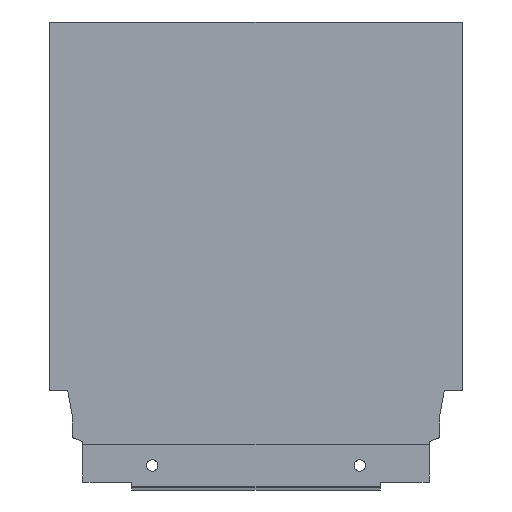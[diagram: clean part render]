
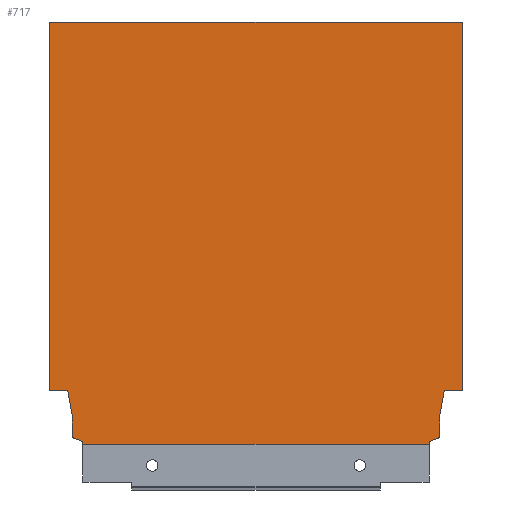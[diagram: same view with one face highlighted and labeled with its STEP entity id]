
A CAD part, top view. The second image highlights one B-rep face of the part: STEP entity #717.
In plain terms, the highlighted planar face has unit normal (0, 0, 1).
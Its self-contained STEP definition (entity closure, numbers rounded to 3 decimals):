
#2 = CARTESIAN_POINT ( 'NONE',  ( -161., 21.2, 7.5 ) ) ;
#3 = CARTESIAN_POINT ( 'NONE',  ( -161., 164.7, 7.5 ) ) ;
#4 = CARTESIAN_POINT ( 'NONE',  ( -147.996, 0., 7.5 ) ) ;
#5 = CARTESIAN_POINT ( 'NONE',  ( -13.004, 1.146, 7.5 ) ) ;
#6 = CARTESIAN_POINT ( 'NONE',  ( -13.004, 0., 7.5 ) ) ;
#7 = CARTESIAN_POINT ( 'NONE',  ( 0., 21.2, 7.5 ) ) ;
#10 = CARTESIAN_POINT ( 'NONE',  ( -7.06, 21.2, 7.5 ) ) ;
#23 = CARTESIAN_POINT ( 'NONE',  ( 0., 164.7, 7.5 ) ) ;
#148 = DIRECTION ( 'NONE',  ( 1., 0., 0. ) ) ;
#149 = DIRECTION ( 'NONE',  ( 0., 0., 1. ) ) ;
#156 = CARTESIAN_POINT ( 'NONE',  ( -161., 0., 7.5 ) ) ;
#160 = PLANE ( 'NONE',  #667 ) ;
#227 = VECTOR ( 'NONE', #1243, 1000. ) ;
#260 = LINE ( 'NONE', #1250, #227 ) ;
#368 = EDGE_LOOP ( 'NONE', ( #405, #406, #407, #408, #409, #410, #411, #412, #413, #414, #415, #416, #417, #418 ) ) ;
#405 = ORIENTED_EDGE ( 'NONE', *, *, #634, .T. ) ;
#406 = ORIENTED_EDGE ( 'NONE', *, *, #639, .F. ) ;
#407 = ORIENTED_EDGE ( 'NONE', *, *, #638, .F. ) ;
#408 = ORIENTED_EDGE ( 'NONE', *, *, #637, .F. ) ;
#409 = ORIENTED_EDGE ( 'NONE', *, *, #636, .F. ) ;
#410 = ORIENTED_EDGE ( 'NONE', *, *, #558, .F. ) ;
#411 = ORIENTED_EDGE ( 'NONE', *, *, #640, .T. ) ;
#412 = ORIENTED_EDGE ( 'NONE', *, *, #635, .F. ) ;
#413 = ORIENTED_EDGE ( 'NONE', *, *, #633, .F. ) ;
#414 = ORIENTED_EDGE ( 'NONE', *, *, #632, .F. ) ;
#415 = ORIENTED_EDGE ( 'NONE', *, *, #630, .F. ) ;
#416 = ORIENTED_EDGE ( 'NONE', *, *, #628, .F. ) ;
#417 = ORIENTED_EDGE ( 'NONE', *, *, #631, .F. ) ;
#418 = ORIENTED_EDGE ( 'NONE', *, *, #626, .F. ) ;
#484 = CARTESIAN_POINT ( 'NONE',  ( -152.1, 2.64, 7.5 ) ) ;
#488 = CARTESIAN_POINT ( 'NONE',  ( -152.1, 10.765, 7.5 ) ) ;
#495 = CARTESIAN_POINT ( 'NONE',  ( -153.94, 21.2, 7.5 ) ) ;
#496 = CARTESIAN_POINT ( 'NONE',  ( -8.9, 10.765, 7.5 ) ) ;
#512 = CARTESIAN_POINT ( 'NONE',  ( -147.996, 1.146, 7.5 ) ) ;
#513 = CARTESIAN_POINT ( 'NONE',  ( -8.9, 2.64, 7.5 ) ) ;
#558 = EDGE_CURVE ( 'NONE', #1399, #1431, #260, .T. ) ;
#626 = EDGE_CURVE ( 'NONE', #1401, #1384, #982, .T. ) ;
#628 = EDGE_CURVE ( 'NONE', #1375, #1373, #986, .T. ) ;
#630 = EDGE_CURVE ( 'NONE', #1373, #1467, #990, .T. ) ;
#631 = EDGE_CURVE ( 'NONE', #1384, #1375, #992, .T. ) ;
#632 = EDGE_CURVE ( 'NONE', #1467, #1424, #994, .T. ) ;
#633 = EDGE_CURVE ( 'NONE', #1424, #1397, #996, .T. ) ;
#634 = EDGE_CURVE ( 'NONE', #1401, #1402, #998, .T. ) ;
#635 = EDGE_CURVE ( 'NONE', #1397, #1396, #977, .T. ) ;
#636 = EDGE_CURVE ( 'NONE', #1431, #1406, #1002, .T. ) ;
#637 = EDGE_CURVE ( 'NONE', #1406, #1405, #1004, .T. ) ;
#638 = EDGE_CURVE ( 'NONE', #1405, #1404, #1006, .T. ) ;
#639 = EDGE_CURVE ( 'NONE', #1404, #1402, #1008, .T. ) ;
#640 = EDGE_CURVE ( 'NONE', #1399, #1396, #1010, .T. ) ;
#667 = AXIS2_PLACEMENT_3D ( 'NONE', #156, #149, #148 ) ;
#717 = ADVANCED_FACE ( 'NONE', ( #1034 ), #160, .T. ) ;
#977 = LINE ( 'NONE', #1167, #1000 ) ;
#982 = LINE ( 'NONE', #1137, #983 ) ;
#983 = VECTOR ( 'NONE', #1139, 1000. ) ;
#986 = LINE ( 'NONE', #1177, #987 ) ;
#987 = VECTOR ( 'NONE', #1141, 1000. ) ;
#990 = LINE ( 'NONE', #1179, #991 ) ;
#991 = VECTOR ( 'NONE', #1143, 1000. ) ;
#992 = LINE ( 'NONE', #1138, #993 ) ;
#993 = VECTOR ( 'NONE', #1158, 1000. ) ;
#994 = LINE ( 'NONE', #1114, #995 ) ;
#995 = VECTOR ( 'NONE', #1131, 1000. ) ;
#996 = LINE ( 'NONE', #1160, #997 ) ;
#997 = VECTOR ( 'NONE', #1159, 1000. ) ;
#998 = LINE ( 'NONE', #1123, #999 ) ;
#999 = VECTOR ( 'NONE', #1192, 1000. ) ;
#1000 = VECTOR ( 'NONE', #1193, 1000. ) ;
#1002 = LINE ( 'NONE', #1124, #1003 ) ;
#1003 = VECTOR ( 'NONE', #1194, 1000. ) ;
#1004 = LINE ( 'NONE', #1125, #1005 ) ;
#1005 = VECTOR ( 'NONE', #1190, 1000. ) ;
#1006 = LINE ( 'NONE', #1186, #1007 ) ;
#1007 = VECTOR ( 'NONE', #1184, 1000. ) ;
#1008 = LINE ( 'NONE', #1126, #1009 ) ;
#1009 = VECTOR ( 'NONE', #1168, 1000. ) ;
#1010 = LINE ( 'NONE', #1127, #1011 ) ;
#1011 = VECTOR ( 'NONE', #1183, 1000. ) ;
#1034 = FACE_OUTER_BOUND ( 'NONE', #368, .T. ) ;
#1114 = CARTESIAN_POINT ( 'NONE',  ( -8.9, 10.765, 7.5 ) ) ;
#1123 = CARTESIAN_POINT ( 'NONE',  ( -161., 0., 7.5 ) ) ;
#1124 = CARTESIAN_POINT ( 'NONE',  ( -152.1, 2.64, 7.5 ) ) ;
#1125 = CARTESIAN_POINT ( 'NONE',  ( -152.1, 10.765, 7.5 ) ) ;
#1126 = CARTESIAN_POINT ( 'NONE',  ( -166., 21.2, 7.5 ) ) ;
#1127 = CARTESIAN_POINT ( 'NONE',  ( -161., 0., 7.5 ) ) ;
#1131 = DIRECTION ( 'NONE',  ( 0., -1., 0. ) ) ;
#1137 = CARTESIAN_POINT ( 'NONE',  ( -161., 164.7, 7.5 ) ) ;
#1138 = CARTESIAN_POINT ( 'NONE',  ( 0., 0., 7.5 ) ) ;
#1139 = DIRECTION ( 'NONE',  ( 1., 0., 0. ) ) ;
#1141 = DIRECTION ( 'NONE',  ( -1., 0., 0. ) ) ;
#1143 = DIRECTION ( 'NONE',  ( -0.174, -0.985, 0. ) ) ;
#1158 = DIRECTION ( 'NONE',  ( 0., -1., 0. ) ) ;
#1159 = DIRECTION ( 'NONE',  ( -0.94, -0.342, 0. ) ) ;
#1160 = CARTESIAN_POINT ( 'NONE',  ( -8.9, 2.64, 7.5 ) ) ;
#1167 = CARTESIAN_POINT ( 'NONE',  ( -13.004, 1.146, 7.5 ) ) ;
#1168 = DIRECTION ( 'NONE',  ( -1., 0., 0. ) ) ;
#1177 = CARTESIAN_POINT ( 'NONE',  ( 0., 21.2, 7.5 ) ) ;
#1179 = CARTESIAN_POINT ( 'NONE',  ( -7.06, 21.2, 7.5 ) ) ;
#1183 = DIRECTION ( 'NONE',  ( 1., 0., 0. ) ) ;
#1184 = DIRECTION ( 'NONE',  ( -0.174, 0.985, 0. ) ) ;
#1186 = CARTESIAN_POINT ( 'NONE',  ( -153.94, 21.2, 7.5 ) ) ;
#1190 = DIRECTION ( 'NONE',  ( 0., 1., 0. ) ) ;
#1192 = DIRECTION ( 'NONE',  ( 0., -1., 0. ) ) ;
#1193 = DIRECTION ( 'NONE',  ( 0., -1., 0. ) ) ;
#1194 = DIRECTION ( 'NONE',  ( -0.94, 0.342, 0. ) ) ;
#1243 = DIRECTION ( 'NONE',  ( 0., 1., 0. ) ) ;
#1250 = CARTESIAN_POINT ( 'NONE',  ( -147.996, 1.146, 7.5 ) ) ;
#1373 = VERTEX_POINT ( 'NONE', #10 ) ;
#1375 = VERTEX_POINT ( 'NONE', #7 ) ;
#1384 = VERTEX_POINT ( 'NONE', #23 ) ;
#1396 = VERTEX_POINT ( 'NONE', #6 ) ;
#1397 = VERTEX_POINT ( 'NONE', #5 ) ;
#1399 = VERTEX_POINT ( 'NONE', #4 ) ;
#1401 = VERTEX_POINT ( 'NONE', #3 ) ;
#1402 = VERTEX_POINT ( 'NONE', #2 ) ;
#1404 = VERTEX_POINT ( 'NONE', #495 ) ;
#1405 = VERTEX_POINT ( 'NONE', #488 ) ;
#1406 = VERTEX_POINT ( 'NONE', #484 ) ;
#1424 = VERTEX_POINT ( 'NONE', #513 ) ;
#1431 = VERTEX_POINT ( 'NONE', #512 ) ;
#1467 = VERTEX_POINT ( 'NONE', #496 ) ;
